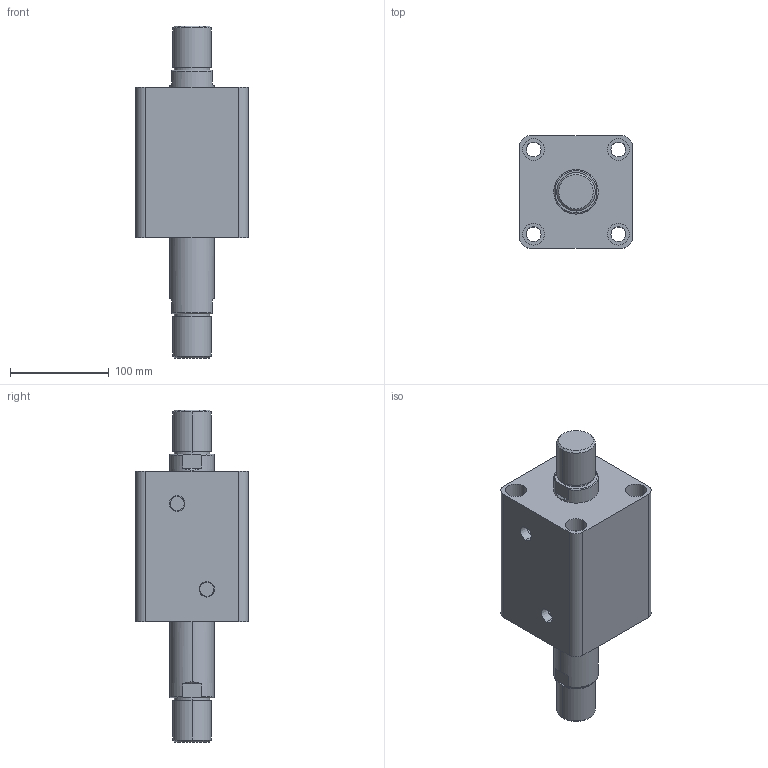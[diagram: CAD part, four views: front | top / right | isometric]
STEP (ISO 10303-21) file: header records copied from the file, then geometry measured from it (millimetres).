
FILE_DESCRIPTION (( 'STEP AP203' ), '1' );
FILE_NAME ('HTB-SW80-60W.STEP', '2019-10-07T10:24:38', ( '微软用户' ), ( '微软中国' ), 'SwSTEP 2.0', 'SolidWorks 2012', '' );
FILE_SCHEMA (( 'CONFIG_CONTROL_DESIGN' ));
Length unit declared in the file: millimetre
Products named in the file (3): HTB-SW80-60W; HTB-SW80-60W活塞杆; HTB-SW80-60掛极
Assembly tree (2 placements, depth 2):
  HTB-SW80-60W
    HTB-SW80-60掛极
    HTB-SW80-60W活塞杆
Bounding box: 114 x 114 x 337 mm (x, y, z)
Volume: 1886332 mm3; surface area: 219054.8 mm2
Topology: 2 solids, 2 shells, 108 faces, 240 edges, 156 vertices
Faces by surface type: cylinder 52, plane 36, torus 12, cone 8
Entity records: 3449 total; most frequent: CARTESIAN_POINT 629, DIRECTION 586, ORIENTED_EDGE 480, AXIS2_PLACEMENT_3D 249, EDGE_CURVE 240, VERTEX_POINT 156, EDGE_LOOP 138, CIRCLE 136
